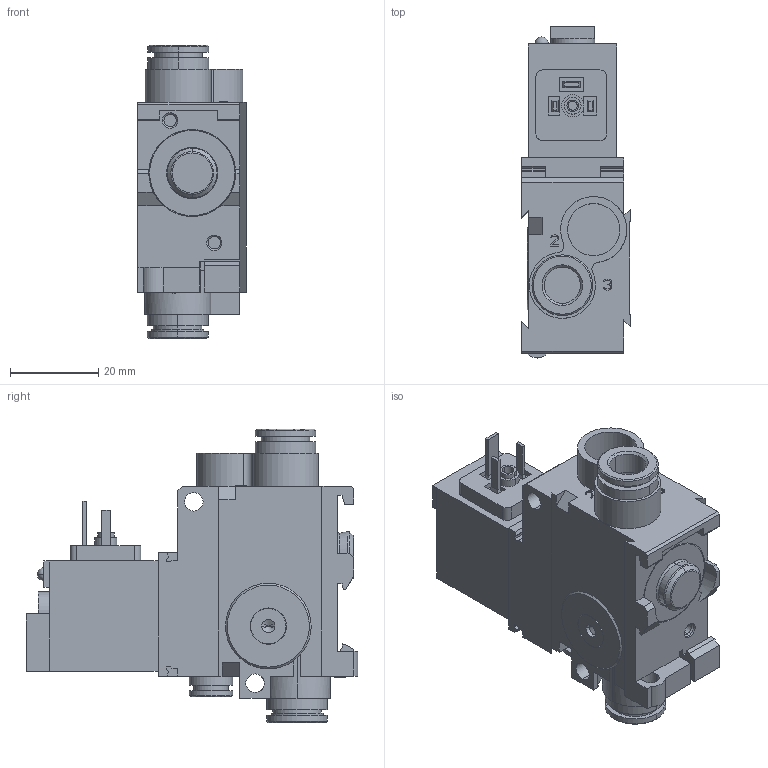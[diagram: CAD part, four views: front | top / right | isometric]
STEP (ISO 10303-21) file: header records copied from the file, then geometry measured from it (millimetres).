
FILE_DESCRIPTION((''),'2;1');
FILE_NAME('5791600620','2018-08-23T',('hug2hc'),(''),'CREO PARAMETRIC BY PTC INC, 2016260','CREO PARAMETRIC BY PTC INC, 2016260','');
FILE_SCHEMA(('CONFIG_CONTROL_DESIGN'));
Length unit declared in the file: millimetre
Products named in the file (1): 5791600620
Bounding box: 24.6 x 75.2 x 66.6 mm (x, y, z)
Volume: 54969.5 mm3; surface area: 17235.4 mm2
Topology: 1 solids, 3 shells, 480 faces, 1247 edges, 812 vertices
Faces by surface type: plane 331, cylinder 109, cone 32, torus 6, sphere 2
Entity records: 14740 total; most frequent: CARTESIAN_POINT 2687, ORIENTED_EDGE 2482, DIRECTION 2475, EDGE_CURVE 1241, VECTOR 943, LINE 943, VERTEX_POINT 812, AXIS2_PLACEMENT_3D 766
